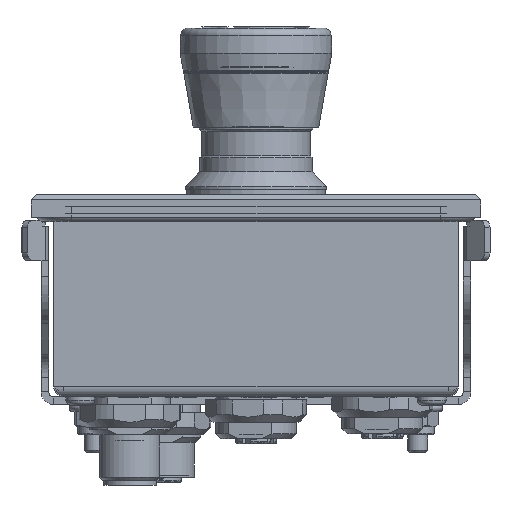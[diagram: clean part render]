
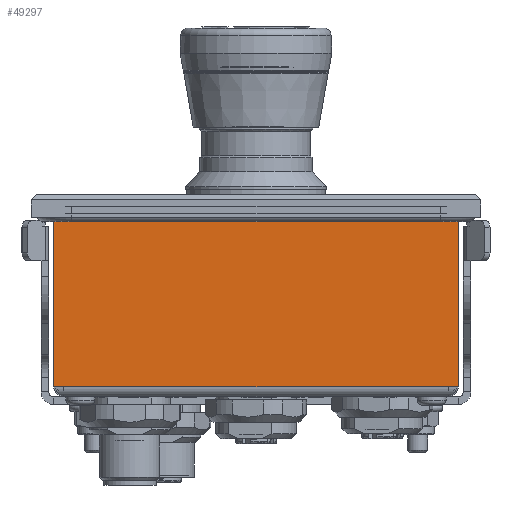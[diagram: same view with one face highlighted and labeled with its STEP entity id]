
A CAD part, left-side view. The second image highlights one B-rep face of the part: STEP entity #49297.
In plain terms, the highlighted planar face has unit normal (-1, 0, 0).
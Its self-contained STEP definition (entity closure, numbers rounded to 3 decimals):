
#2358=PLANE('',#52314);
#3897=FACE_OUTER_BOUND('',#6735,.T.);
#6735=EDGE_LOOP('',(#32570,#32571,#32572,#32573));
#11701=LINE('',#70026,#15858);
#11986=LINE('',#71441,#16143);
#11987=LINE('',#71443,#16144);
#11988=LINE('',#71444,#16145);
#15858=VECTOR('',#57053,10.);
#16143=VECTOR('',#57424,10.);
#16144=VECTOR('',#57425,10.);
#16145=VECTOR('',#57426,10.);
#20062=VERTEX_POINT('',#70023);
#20063=VERTEX_POINT('',#70025);
#20509=VERTEX_POINT('',#71440);
#20510=VERTEX_POINT('',#71442);
#24781=EDGE_CURVE('',#20063,#20062,#11701,.T.);
#25240=EDGE_CURVE('',#20062,#20509,#11986,.T.);
#25241=EDGE_CURVE('',#20510,#20509,#11987,.T.);
#25242=EDGE_CURVE('',#20063,#20510,#11988,.T.);
#32570=ORIENTED_EDGE('',*,*,#25240,.T.);
#32571=ORIENTED_EDGE('',*,*,#25241,.F.);
#32572=ORIENTED_EDGE('',*,*,#25242,.F.);
#32573=ORIENTED_EDGE('',*,*,#24781,.T.);
#49297=ADVANCED_FACE('',(#3897),#2358,.T.);
#52314=AXIS2_PLACEMENT_3D('',#71439,#57422,#57423);
#57053=DIRECTION('',(0.,0.,-1.));
#57422=DIRECTION('center_axis',(-1.,0.,0.));
#57423=DIRECTION('ref_axis',(0.,0.,
1.));
#57424=DIRECTION('',(0.,-1.,0.));
#57425=DIRECTION('',(0.,0.,-1.));
#57426=DIRECTION('',(0.,-1.,0.));
#70023=CARTESIAN_POINT('',(-137.95,40.,-32.01));
#70025=CARTESIAN_POINT('',(-137.95,40.,1.5));
#70026=CARTESIAN_POINT('',(-137.95,40.,1.5));
#71439=CARTESIAN_POINT('Origin',(-137.95,0.,-16.316));
#71440=CARTESIAN_POINT('',(-137.95,-40.,-32.01));
#71441=CARTESIAN_POINT('',(-137.95,0.,-32.01));
#71442=CARTESIAN_POINT('',(-137.95,-40.,1.5));
#71443=CARTESIAN_POINT('',(-137.95,-40.,-32.01));
#71444=CARTESIAN_POINT('',(-137.95,20.,1.5));
